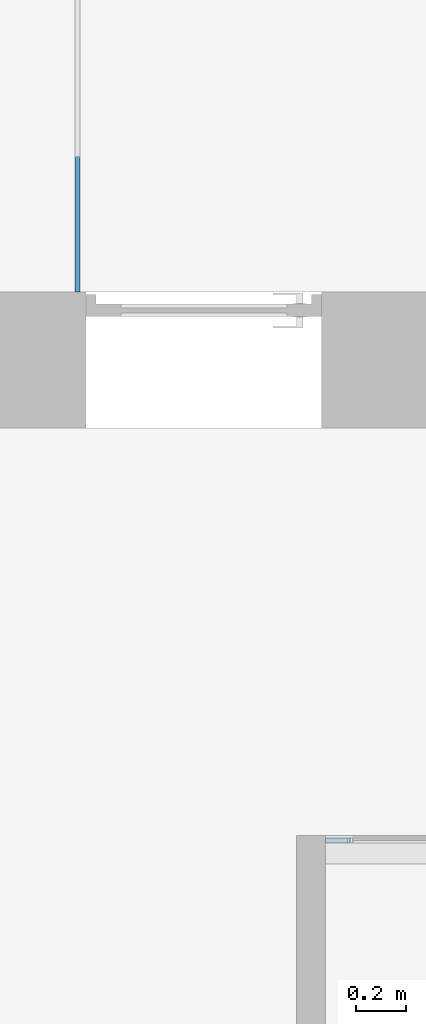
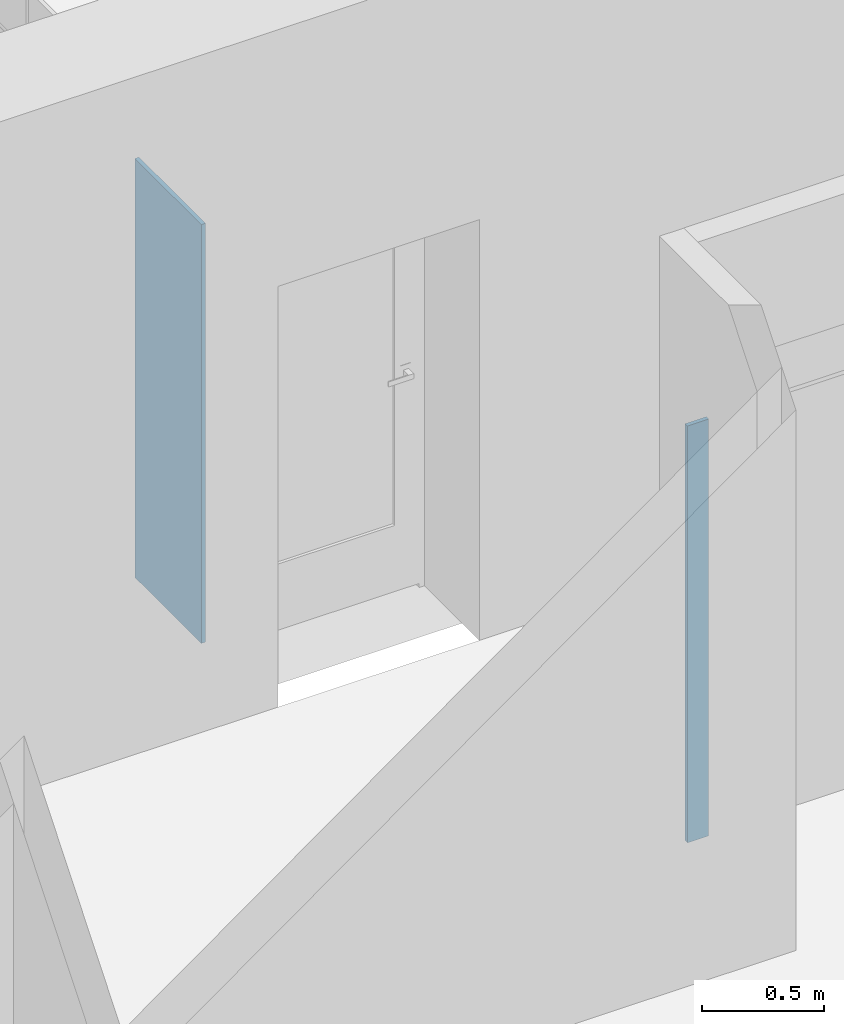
# One storey, part 22 of 66: 2 plates, 2 elements without a shape of their own.
"""IFC2X3 building model written with IfcOpenShell, lengths in millimetres."""

from ifc_helpers import new_model, entity, si_unit, converted_unit, derived_unit, direction, frame, origin, origin_2d_with_axis, place, context, subcontext, project, spatial, rectangle, extrude, source, transform, mapped, material, layer, layer_set, layer_usage, type_object, type_shapes, element, aggregate, save


model = new_model("IFC2X3")

# Units and contexts
model_context = context("Model", 3, precision=0.01, world=origin(), true_north=direction((6.12303176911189e-17, 1.0)))
body_context = subcontext(model_context, "Body", "Model", "MODEL_VIEW")
ifc_project = project(units=[si_unit("LENGTHUNIT", "METRE", prefix="MILLI"), si_unit("AREAUNIT", "SQUARE_METRE"), si_unit("VOLUMEUNIT", "CUBIC_METRE"), converted_unit("PLANEANGLEUNIT", "DEGREE", entity("IfcRatioMeasure", 0.0174532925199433), si_unit("PLANEANGLEUNIT", "RADIAN"), dimensions=[0, 0, 0, 0, 0, 0, 0]), si_unit("MASSUNIT", "GRAM", prefix="KILO"), derived_unit("MASSDENSITYUNIT", [(si_unit("MASSUNIT", "GRAM", prefix="KILO"), 1), (si_unit("LENGTHUNIT", "METRE"), -3)]), si_unit("TIMEUNIT", "SECOND"), si_unit("FREQUENCYUNIT", "HERTZ"), si_unit("THERMODYNAMICTEMPERATUREUNIT", "DEGREE_CELSIUS"), derived_unit("THERMALTRANSMITTANCEUNIT", [(si_unit("MASSUNIT", "GRAM", prefix="KILO"), 1), (si_unit("THERMODYNAMICTEMPERATUREUNIT", "KELVIN"), -1), (si_unit("TIMEUNIT", "SECOND"), -3)]), derived_unit("VOLUMETRICFLOWRATEUNIT", [(si_unit("LENGTHUNIT", "METRE"), 3), (si_unit("TIMEUNIT", "SECOND"), -1)]), si_unit("ELECTRICCURRENTUNIT", "AMPERE"), si_unit("ELECTRICVOLTAGEUNIT", "VOLT"), si_unit("POWERUNIT", "WATT"), si_unit("FORCEUNIT", "NEWTON", prefix="KILO"), si_unit("ILLUMINANCEUNIT", "LUX"), si_unit("LUMINOUSFLUXUNIT", "LUMEN"), si_unit("LUMINOUSINTENSITYUNIT", "CANDELA"), derived_unit("USERDEFINED", [(si_unit("MASSUNIT", "GRAM", prefix="KILO"), -1), (si_unit("LENGTHUNIT", "METRE"), -2), (si_unit("TIMEUNIT", "SECOND"), 3), (si_unit("LUMINOUSFLUXUNIT", "LUMEN"), 1)]), derived_unit("LINEARVELOCITYUNIT", [(si_unit("LENGTHUNIT", "METRE"), 1), (si_unit("TIMEUNIT", "SECOND"), -1)]), si_unit("PRESSUREUNIT", "PASCAL"), derived_unit("USERDEFINED", [(si_unit("LENGTHUNIT", "METRE"), -2), (si_unit("MASSUNIT", "GRAM", prefix="KILO"), 1), (si_unit("TIMEUNIT", "SECOND"), -2)])], contexts=[model_context])

# Site, building, storey
site_placement = place(None, frame((-151.875543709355, 2715.0, 0.0)))
site = spatial("IfcSite", under=ifc_project, at=site_placement, Name="Surface", CompositionType="ELEMENT")
building_placement = place(site_placement, origin())
building = spatial("IfcBuilding", under=site, at=building_placement, CompositionType="ELEMENT")
storey_placement = place(building_placement, frame((0.0, 0.0, 3350.0)))
storey = spatial("IfcBuildingStorey", under=building, at=storey_placement, Name="2 korrus", CompositionType="ELEMENT", Elevation=3350.00000000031)

# Curtain wall, plate
curtain_wall_type_1 = type_object("IfcCurtainWallType", Name="Curtain Wall:Klaassein KLS-11", PredefinedType="NOTDEFINED")
curtain_wall_1_placement = place(storey_placement, frame((0.0, 0.0, -3350.0)))
curtain_wall_1 = element("IfcCurtainWall", 1, at=curtain_wall_1_placement, inside=storey, type_object=curtain_wall_type_1, Name="Curtain Wall:Klaassein KLS-11", ObjectType="Curtain Wall:Klaassein KLS-11")
ifc_material = material(Name="<Unnamed>")
ifc_layer = layer(ifc_material, 20.0)
ifc_layer_set = layer_set([ifc_layer], Name="Curtain Wall:Klaassein KLS-01")
ifc_layer_usage_1 = layer_usage(ifc_layer_set, "AXIS3", "POSITIVE", 0.0)
plate_type_1 = type_object("IfcPlateType", Name="Glazed", PredefinedType="CURTAIN_PANEL", material=ifc_layer_set)
shared_shape_1 = source(origin(), body_context, "Body", "SweptSolid", [
    extrude(rectangle(XDim=20.0, YDim=99.9999996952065, at=origin_2d_with_axis()), frame((0.0, 0.0, 0.0), z_axis=(0.0, 0.0, 1.0), x_axis=(0.0, 1.0, 0.0)), (0.0, 0.0, 1.0), 2080.0),
])
type_shapes(plate_type_1, [shared_shape_1])
plate_1_placement = place(curtain_wall_1_placement, frame((28104.0171592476, 4345.04493399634, 3350.0), z_axis=(0.0, 0.0, 1.0), x_axis=(-1.0, 0.0, 0.0)))
plate_1 = element("IfcPlate", 2, at=plate_1_placement, type_object=plate_type_1, material=ifc_layer_usage_1, Name="System Panel:Glazed", ObjectType="Glazed", context=body_context, shape_type="MappedRepresentation", body=[
    mapped(shared_shape_1, transform((0.0, 0.0, 0.0), scale=1.0)),
])
aggregate(curtain_wall_1, [plate_1])

curtain_wall_type_2 = type_object("IfcCurtainWallType", Name="Curtain Wall:Klaassein KLS-05", PredefinedType="NOTDEFINED")
curtain_wall_2_placement = place(storey_placement, frame((0.0, 0.0, -3350.0)))
curtain_wall_2 = element("IfcCurtainWall", 3, at=curtain_wall_2_placement, inside=storey, type_object=curtain_wall_type_2, Name="Curtain Wall:Klaassein KLS-05", ObjectType="Curtain Wall:Klaassein KLS-05")
ifc_layer_usage_2 = layer_usage(ifc_layer_set, "AXIS3", "POSITIVE", 0.0)
plate_type_2 = type_object("IfcPlateType", Name="Glazed", PredefinedType="CURTAIN_PANEL", material=ifc_layer_set)
shared_shape_2 = source(origin(), body_context, "Body", "SweptSolid", [
    extrude(rectangle(XDim=20.0, YDim=543.919881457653, at=origin_2d_with_axis()), frame((0.0, 0.0, 0.0), z_axis=(0.0, 0.0, 1.0), x_axis=(0.0, 1.0, 0.0)), (0.0, 0.0, 1.0), 2090.0),
])
type_shapes(plate_type_2, [shared_shape_2])
plate_2_placement = place(curtain_wall_2_placement, frame((27053.2859998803, 6831.95994072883, 3350.0), z_axis=(0.0, 0.0, 1.0), x_axis=(0.0, 1.0, 0.0)))
plate_2 = element("IfcPlate", 4, at=plate_2_placement, type_object=plate_type_2, material=ifc_layer_usage_2, Name="System Panel:Glazed", ObjectType="Glazed", context=body_context, shape_type="MappedRepresentation", body=[
    mapped(shared_shape_2, transform((0.0, 0.0, 0.0), scale=1.0)),
])
aggregate(curtain_wall_2, [plate_2])

save(model, "model.ifc")
